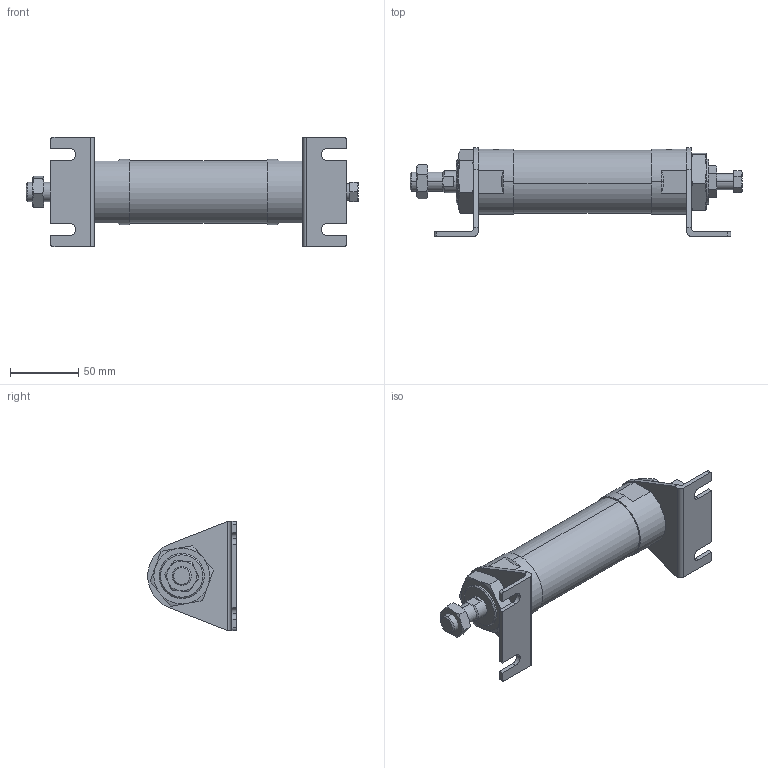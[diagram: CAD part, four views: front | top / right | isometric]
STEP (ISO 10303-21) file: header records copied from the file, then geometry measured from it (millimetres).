
FILE_DESCRIPTION (( 'STEP AP203' ), '1' );
FILE_NAME ('JGA2-40-50-L.STEP', '2016-04-20T05:09:40', ( '' ), ( '' ), 'SwSTEP 2.0', 'SolidWorks 2014', '' );
FILE_SCHEMA (( 'CONFIG_CONTROL_DESIGN' ));
Length unit declared in the file: millimetre
Products named in the file (7): JGA2-40A; JGA2-40-50-L; M14x1.5-8mm; 40-50; M33x2-11mm; J#2-40-L; JGLH2-40B
Assembly tree (8 placements, depth 2):
  JGA2-40-50-L
    JGLH2-40B
    40-50
    JGA2-40A
    M14x1.5-8mm
    J#2-40-L  x2
    M33x2-11mm  x2
Bounding box: 243.5 x 65 x 80 mm (x, y, z)
Volume: 344362 mm3; surface area: 71799.9 mm2
Topology: 8 solids, 8 shells, 200 faces, 468 edges, 288 vertices
Faces by surface type: plane 86, cylinder 50, torus 48, cone 16
Entity records: 5692 total; most frequent: CARTESIAN_POINT 1567, DIRECTION 701, ORIENTED_EDGE 686, EDGE_CURVE 343, AXIS2_PLACEMENT_3D 282, VERTEX_POINT 212, EDGE_LOOP 165, ADVANCED_FACE 151
